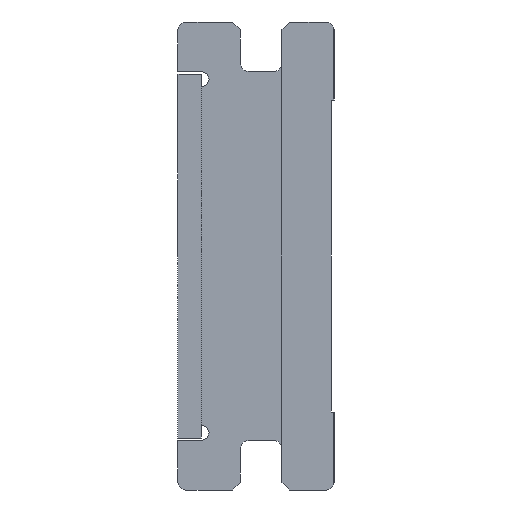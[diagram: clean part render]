
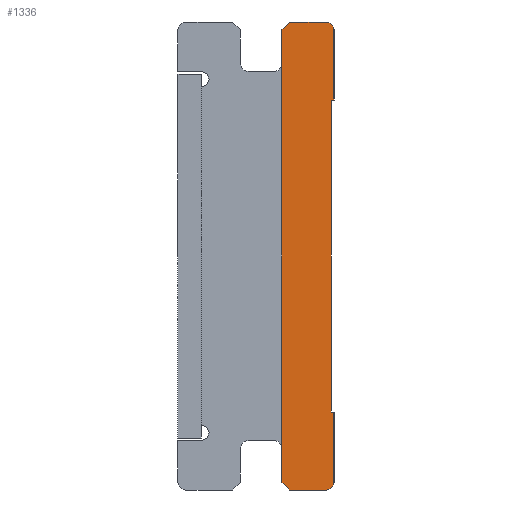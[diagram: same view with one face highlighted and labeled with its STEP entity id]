
A CAD part, left-side view. The second image highlights one B-rep face of the part: STEP entity #1336.
In plain terms, the highlighted planar face has unit normal (-1, 0, 0).
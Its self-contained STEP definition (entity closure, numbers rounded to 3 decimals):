
#7 = DIRECTION ( 'NONE',  ( 0., 0.707, 0.707 ) ) ;
#45 = CARTESIAN_POINT ( 'NONE',  ( 0., 0., -15. ) ) ;
#215 = ORIENTED_EDGE ( 'NONE', *, *, #1359, .F. ) ;
#223 = EDGE_CURVE ( 'NONE', #1997, #1377, #1963, .T. ) ;
#225 = LINE ( 'NONE', #2177, #1267 ) ;
#252 = DIRECTION ( 'NONE',  ( 0., 0., 1. ) ) ;
#274 = ORIENTED_EDGE ( 'NONE', *, *, #464, .F. ) ;
#292 = VECTOR ( 'NONE', #343, 1000. ) ;
#324 = AXIS2_PLACEMENT_3D ( 'NONE', #1382, #1036, #2381 ) ;
#337 = VECTOR ( 'NONE', #7, 1000. ) ;
#343 = DIRECTION ( 'NONE',  ( 0., 0., -1. ) ) ;
#350 = CARTESIAN_POINT ( 'NONE',  ( 0., 0.3, -17.7 ) ) ;
#357 = ORIENTED_EDGE ( 'NONE', *, *, #223, .F. ) ;
#374 = DIRECTION ( 'NONE',  ( 0., 0., 1. ) ) ;
#376 = AXIS2_PLACEMENT_3D ( 'NONE', #2060, #1116, #374 ) ;
#382 = DIRECTION ( 'NONE',  ( 0., -1., 0. ) ) ;
#388 = CARTESIAN_POINT ( 'NONE',  ( 0., 0., -0.3 ) ) ;
#399 = CARTESIAN_POINT ( 'NONE',  ( 0., 0., -0.3 ) ) ;
#401 = DIRECTION ( 'NONE',  ( 0., -0.707, 0.707 ) ) ;
#417 = EDGE_CURVE ( 'NONE', #2463, #1997, #562, .T. ) ;
#445 = CARTESIAN_POINT ( 'NONE',  ( 0., 2., -17.7 ) ) ;
#464 = EDGE_CURVE ( 'NONE', #1377, #1017, #1632, .T. ) ;
#562 = LINE ( 'NONE', #1106, #1175 ) ;
#564 = ORIENTED_EDGE ( 'NONE', *, *, #1044, .F. ) ;
#576 = CARTESIAN_POINT ( 'NONE',  ( 0., 1.7, 0. ) ) ;
#594 = EDGE_CURVE ( 'NONE', #920, #1853, #765, .T. ) ;
#603 = VECTOR ( 'NONE', #252, 1000. ) ;
#637 = CARTESIAN_POINT ( 'NONE',  ( 0., 2., -17.7 ) ) ;
#638 = DIRECTION ( 'NONE',  ( 0., 0., -1. ) ) ;
#717 = LINE ( 'NONE', #1478, #292 ) ;
#759 = LINE ( 'NONE', #1488, #1331 ) ;
#765 = CIRCLE ( 'NONE', #376, 0.3 ) ;
#784 = LINE ( 'NONE', #2103, #1064 ) ;
#799 = DIRECTION ( 'NONE',  ( 0., 1., 0. ) ) ;
#840 = EDGE_CURVE ( 'NONE', #1017, #1773, #1608, .T. ) ;
#853 = CARTESIAN_POINT ( 'NONE',  ( 0., 0.1, -15. ) ) ;
#858 = CARTESIAN_POINT ( 'NONE',  ( 0., 2., -0.3 ) ) ;
#877 = VERTEX_POINT ( 'NONE', #576 ) ;
#894 = EDGE_CURVE ( 'NONE', #1773, #1214, #941, .T. ) ;
#920 = VERTEX_POINT ( 'NONE', #1854 ) ;
#941 = LINE ( 'NONE', #1136, #337 ) ;
#944 = LINE ( 'NONE', #399, #2213 ) ;
#981 = EDGE_CURVE ( 'NONE', #2175, #1806, #225, .T. ) ;
#1017 = VERTEX_POINT ( 'NONE', #2292 ) ;
#1028 = ORIENTED_EDGE ( 'NONE', *, *, #2129, .F. ) ;
#1029 = CARTESIAN_POINT ( 'NONE',  ( 0., 0.1, -3. ) ) ;
#1036 = DIRECTION ( 'NONE',  ( 1., 0., 0. ) ) ;
#1044 = EDGE_CURVE ( 'NONE', #2198, #877, #784, .T. ) ;
#1064 = VECTOR ( 'NONE', #401, 1000. ) ;
#1094 = DIRECTION ( 'NONE',  ( 1., 0., 0. ) ) ;
#1106 = CARTESIAN_POINT ( 'NONE',  ( 0., 0., -15. ) ) ;
#1116 = DIRECTION ( 'NONE',  ( 1., 0., 0. ) ) ;
#1136 = CARTESIAN_POINT ( 'NONE',  ( 0., 1.7, -18. ) ) ;
#1175 = VECTOR ( 'NONE', #2268, 1000. ) ;
#1213 = EDGE_LOOP ( 'NONE', ( #564, #1028, #2391, #1786, #274, #357, #1703, #1977, #2137, #1509, #1598, #215 ) ) ;
#1214 = VERTEX_POINT ( 'NONE', #445 ) ;
#1249 = PLANE ( 'NONE',  #324 ) ;
#1267 = VECTOR ( 'NONE', #2322, 1000. ) ;
#1277 = EDGE_CURVE ( 'NONE', #1806, #2463, #717, .T. ) ;
#1290 = CARTESIAN_POINT ( 'NONE',  ( 0., 0., -17.7 ) ) ;
#1301 = CARTESIAN_POINT ( 'NONE',  ( 0., 0., -15. ) ) ;
#1331 = VECTOR ( 'NONE', #382, 1000. ) ;
#1332 = VECTOR ( 'NONE', #638, 1000. ) ;
#1336 = ADVANCED_FACE ( 'NONE', ( #1618 ), #1249, .F. ) ;
#1359 = EDGE_CURVE ( 'NONE', #877, #920, #759, .T. ) ;
#1377 = VERTEX_POINT ( 'NONE', #1290 ) ;
#1382 = CARTESIAN_POINT ( 'NONE',  ( 0., 5.1, -15.8 ) ) ;
#1403 = EDGE_CURVE ( 'NONE', #1853, #2175, #944, .T. ) ;
#1447 = VECTOR ( 'NONE', #799, 1000. ) ;
#1478 = CARTESIAN_POINT ( 'NONE',  ( 0., 0.1, -3. ) ) ;
#1488 = CARTESIAN_POINT ( 'NONE',  ( 0., 0.3, 0. ) ) ;
#1509 = ORIENTED_EDGE ( 'NONE', *, *, #1403, .F. ) ;
#1572 = CARTESIAN_POINT ( 'NONE',  ( 0., 0., -3. ) ) ;
#1598 = ORIENTED_EDGE ( 'NONE', *, *, #594, .F. ) ;
#1608 = LINE ( 'NONE', #2373, #1447 ) ;
#1618 = FACE_OUTER_BOUND ( 'NONE', #1213, .T. ) ;
#1632 = CIRCLE ( 'NONE', #2067, 0.3 ) ;
#1684 = DIRECTION ( 'NONE',  ( 0., 0., -1. ) ) ;
#1703 = ORIENTED_EDGE ( 'NONE', *, *, #417, .F. ) ;
#1773 = VERTEX_POINT ( 'NONE', #2000 ) ;
#1786 = ORIENTED_EDGE ( 'NONE', *, *, #840, .F. ) ;
#1806 = VERTEX_POINT ( 'NONE', #1029 ) ;
#1853 = VERTEX_POINT ( 'NONE', #388 ) ;
#1854 = CARTESIAN_POINT ( 'NONE',  ( 0., 0.3, 0. ) ) ;
#1896 = DIRECTION ( 'NONE',  ( 0., 0., -1. ) ) ;
#1963 = LINE ( 'NONE', #45, #1332 ) ;
#1977 = ORIENTED_EDGE ( 'NONE', *, *, #1277, .F. ) ;
#1997 = VERTEX_POINT ( 'NONE', #1301 ) ;
#2000 = CARTESIAN_POINT ( 'NONE',  ( 0., 1.7, -18. ) ) ;
#2060 = CARTESIAN_POINT ( 'NONE',  ( 0., 0.3, -0.3 ) ) ;
#2067 = AXIS2_PLACEMENT_3D ( 'NONE', #350, #1094, #1684 ) ;
#2103 = CARTESIAN_POINT ( 'NONE',  ( 0., 1.7, 0. ) ) ;
#2129 = EDGE_CURVE ( 'NONE', #1214, #2198, #2335, .T. ) ;
#2137 = ORIENTED_EDGE ( 'NONE', *, *, #981, .F. ) ;
#2175 = VERTEX_POINT ( 'NONE', #1572 ) ;
#2177 = CARTESIAN_POINT ( 'NONE',  ( 0., 0., -3. ) ) ;
#2198 = VERTEX_POINT ( 'NONE', #858 ) ;
#2213 = VECTOR ( 'NONE', #1896, 1000. ) ;
#2268 = DIRECTION ( 'NONE',  ( 0., -1., 0. ) ) ;
#2292 = CARTESIAN_POINT ( 'NONE',  ( 0., 0.3, -18. ) ) ;
#2322 = DIRECTION ( 'NONE',  ( 0., 1., 0. ) ) ;
#2335 = LINE ( 'NONE', #637, #603 ) ;
#2373 = CARTESIAN_POINT ( 'NONE',  ( 0., 0.3, -18. ) ) ;
#2381 = DIRECTION ( 'NONE',  ( 0., 1., 0. ) ) ;
#2391 = ORIENTED_EDGE ( 'NONE', *, *, #894, .F. ) ;
#2463 = VERTEX_POINT ( 'NONE', #853 ) ;
